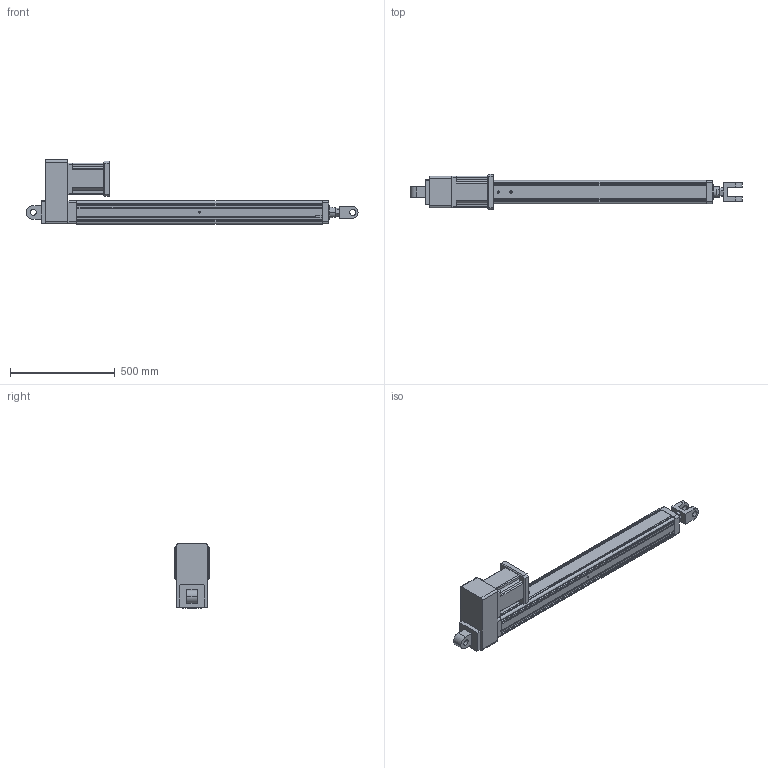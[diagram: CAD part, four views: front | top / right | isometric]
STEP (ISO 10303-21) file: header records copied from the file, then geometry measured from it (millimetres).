
FILE_DESCRIPTION (( 'STEP AP203' ), '1' );
FILE_NAME ('YRJ110-L1000-H6K4.STEP', '2020-01-04T06:57:11', ( 'User' ), ( 'China' ), 'SwSTEP 2.0', 'SolidWorks 2016', '' );
FILE_SCHEMA (( 'CONFIG_CONTROL_DESIGN' ));
Length unit declared in the file: millimetre
Products named in the file (8): H6-110; H3-110-2; YRJ110-L1000-H6K4; 095-100俴最倰第; 萇儂碟-110; 142熬厒儂; K4-110; H5-110-1
Assembly tree (7 placements, depth 2):
  YRJ110-L1000-H6K4
    095-100俴最倰第
    萇儂碟-110
    142熬厒儂
    K4-110
    H5-110-1
    H6-110
    H3-110-2
Bounding box: 1581 x 168 x 305.5 mm (x, y, z)
Volume: 15254310.5 mm3; surface area: 1576342.4 mm2
Topology: 7 solids, 7 shells, 336 faces, 919 edges, 595 vertices
Faces by surface type: plane 191, cylinder 118, cone 27
Entity records: 11712 total; most frequent: CARTESIAN_POINT 2184, DIRECTION 1824, ORIENTED_EDGE 1806, EDGE_CURVE 903, LINE 630, VECTOR 630, AXIS2_PLACEMENT_3D 597, VERTEX_POINT 595
